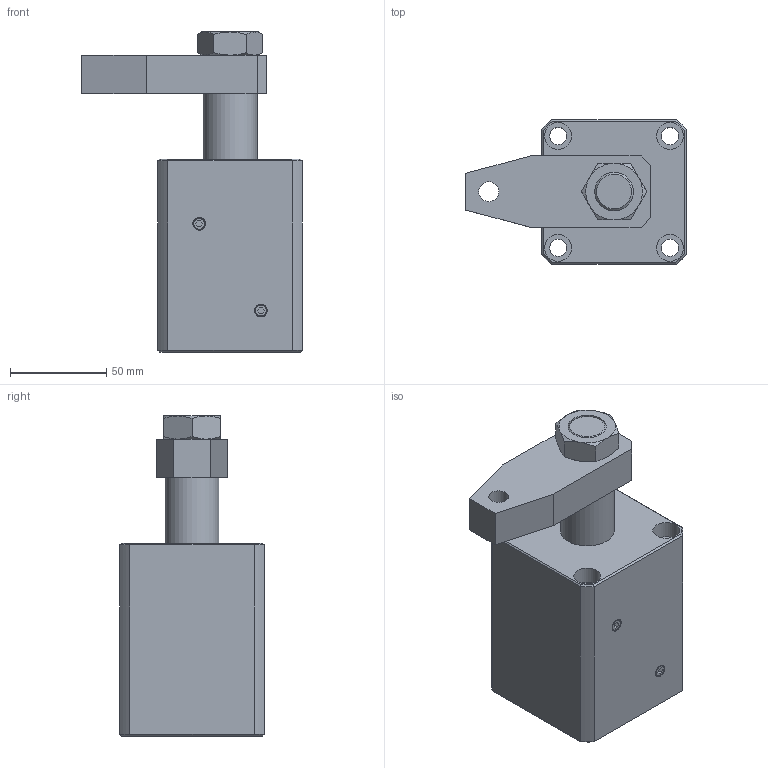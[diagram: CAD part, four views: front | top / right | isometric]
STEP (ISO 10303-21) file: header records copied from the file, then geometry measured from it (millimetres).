
FILE_DESCRIPTION(/* description */ ('Unknown'),/* implementation_level */ '2;1');
FILE_NAME(/* name */ 'HSC-M50S-A',/* time_stamp */ '2019-05-27T15:07:27+08:00',/* author */ ('Unknown'),/* organization */ ('Unknown'),/* preprocessor_version */ 'ST-DEVELOPER v16.7',/* originating_system */ 'DEX',/* authorisation */ $);
FILE_SCHEMA (('AUTOMOTIVE_DESIGN {1 0 10303 214 3 1 1}'));
Length unit declared in the file: millimetre
Products named in the file (4): HSC-M50S-A; HSC-M50S-CYLINDER; HSC-5002-S-AXLE CENTRE; HSC-50S-A
Assembly tree (3 placements, depth 2):
  HSC-M50S-A
    HSC-M50S-CYLINDER
    HSC-5002-S-AXLE CENTRE
    HSC-50S-A
Bounding box: 114.5 x 75 x 166 mm (x, y, z)
Volume: 559165.8 mm3; surface area: 94601.3 mm2
Topology: 3 solids, 3 shells, 126 faces, 271 edges, 172 vertices
Faces by surface type: plane 65, cone 32, cylinder 26, torus 3
Full cylindrical faces by diameter (mm): 4.1 x2, 5 x2, 9 x4, 10.3 x1, 11 x2, 14 x4, 20 x2, 21 x1, 28 x2, 50 x2
Entity records: 3583 total; most frequent: CARTESIAN_POINT 629, DIRECTION 534, ORIENTED_EDGE 440, AXIS2_PLACEMENT_3D 222, EDGE_CURVE 220, FACE_BOUND 199, EDGE_LOOP 197, VERTEX_POINT 161
